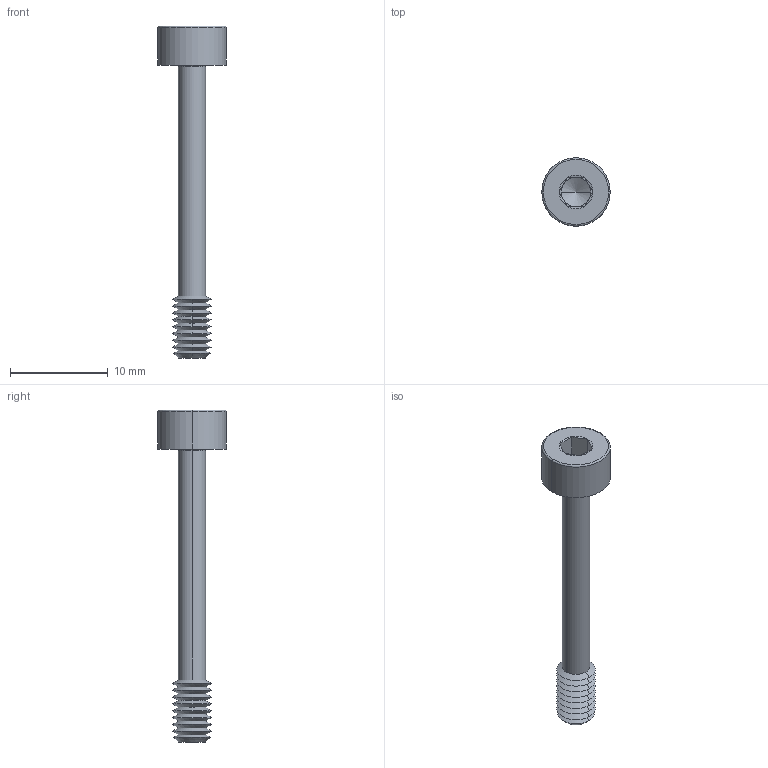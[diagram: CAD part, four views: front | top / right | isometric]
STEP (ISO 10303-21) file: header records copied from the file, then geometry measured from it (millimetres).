
FILE_DESCRIPTION (( 'STEP AP203' ), '1' );
FILE_NAME ('P0154.040-030-BL.step', '2024-06-17T11:25:10', ( '' ), ( '' ), 'SwSTEP 2.0', 'SolidWorks 2019', '' );
FILE_SCHEMA (( 'CONFIG_CONTROL_DESIGN' ));
Length unit declared in the file: millimetre
Products named in the file (1): P0154.040-030-BL
Bounding box: 7 x 7 x 34 mm (x, y, z)
Volume: 331.6 mm3; surface area: 534.6 mm2
Topology: 1 solids, 1 shells, 67 faces, 136 edges, 71 vertices
Faces by surface type: cone 44, plane 15, torus 4, cylinder 4
Entity records: 1787 total; most frequent: DIRECTION 332, CARTESIAN_POINT 299, ORIENTED_EDGE 268, AXIS2_PLACEMENT_3D 136, EDGE_CURVE 134, VERTEX_POINT 71, EDGE_LOOP 69, CIRCLE 68
